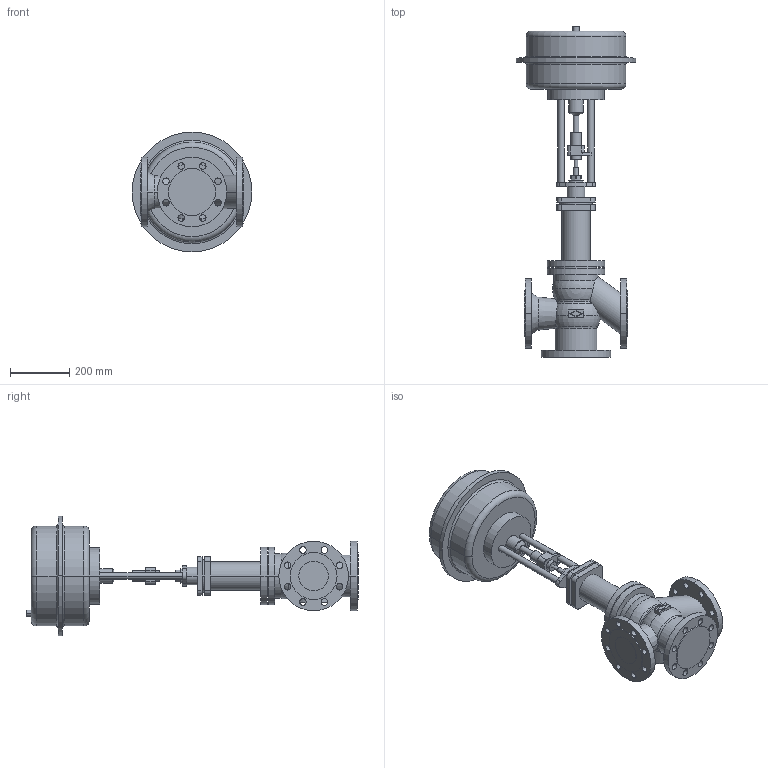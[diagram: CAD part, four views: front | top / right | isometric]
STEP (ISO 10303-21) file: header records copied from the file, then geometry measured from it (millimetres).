
FILE_DESCRIPTION(('OneSpaceDesigner STEP Export'),'2;1');
FILE_NAME('c000000764.stp','2006-09-21T 8:49:00',(''),(''),'OneSpace Designer STEP processor for AP214 (Solid Model)','OneSpace Designer 13.20A 18-Aug-2005 (C) CoCreate Software GmbH','');
FILE_SCHEMA(('AUTOMOTIVE_DESIGN { 1 0 10303 214 1 1 1 1 }'));
Length unit declared in the file: millimetre
Products named in the file (2): 1; 2
Bounding box: 405 x 1122.7 x 405 mm (x, y, z)
Volume: 32605404.5 mm3; surface area: 1242884.7 mm2
Topology: 2 solids, 2 shells, 252 faces, 628 edges, 410 vertices
Faces by surface type: cylinder 136, plane 84, torus 22, cone 6, sphere 4
Entity records: 6994 total; most frequent: CARTESIAN_POINT 1459, ORIENTED_EDGE 1248, DIRECTION 998, EDGE_CURVE 624, VERTEX_POINT 410, AXIS2_PLACEMENT_3D 367, EDGE_LOOP 334, VECTOR 264
